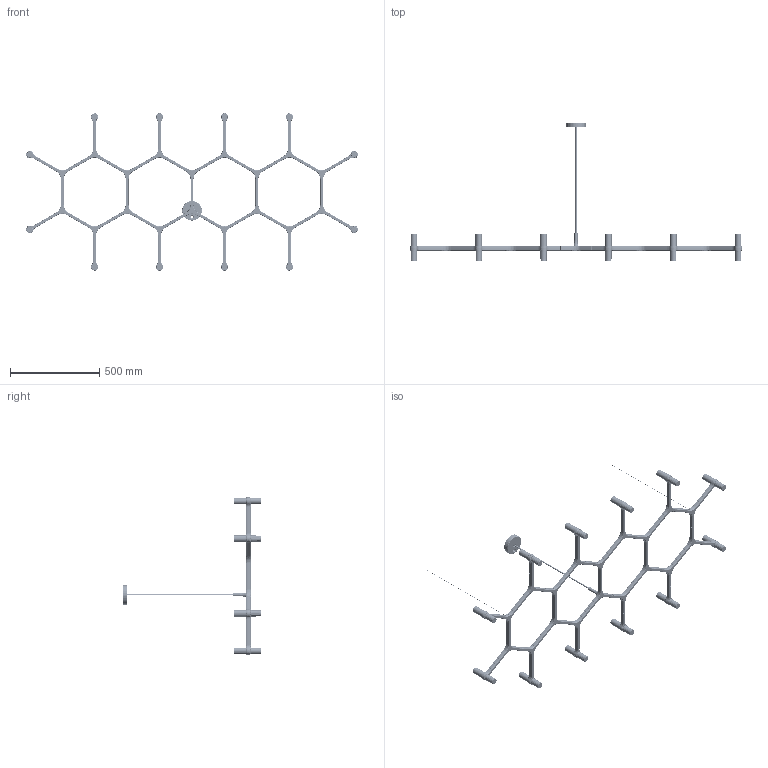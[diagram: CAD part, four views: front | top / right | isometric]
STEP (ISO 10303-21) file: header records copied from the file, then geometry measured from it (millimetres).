
FILE_DESCRIPTION (( 'STEP AP214' ), '1' );
FILE_NAME ('Giga Major 12.STEP', '2014-04-15T15:29:35', ( 'winner' ), ( '' ), 'SwSTEP 2.0', 'SolidWorks 2012', '' );
FILE_SCHEMA (( 'AUTOMOTIVE_DESIGN' ));
Length unit declared in the file: millimetre
Products named in the file (19): 052COM700110; 051CRO700100; TERMINALE_ASM; 061CRO701200; 51G9-L18; 051CRO701200; 051CRO700600; 051CRO700800; 051CRO700500; cavo acciaio; red cable; CROCE-SUP-VITI_ASM; 051CRO700300; CROCE-SUP-COLONNA_ASM; 051CRO700900_ASM; BARRA_CORTA_M12X1; COLONNA; 051CRO700400; Giga Major 12
Assembly tree (63 placements, depth 4):
  Giga Major 12
    CROCE-SUP-COLONNA_ASM
      051CRO700400
      051CRO700900_ASM
        COLONNA
        BARRA_CORTA_M12X1
    CROCE-SUP-VITI_ASM  x12
      051CRO700300
    red cable
    cavo acciaio  x2
    TERMINALE_ASM  x12
      051CRO700500
      051CRO700800
      051CRO700600
      051CRO701200
      51G9-L18
      061CRO701200
    051CRO700100  x18
    051CRO700300  x5
    052COM700110
Bounding box: 1860.65 x 777.5 x 882 mm (x, y, z)
Volume: 460159.2 mm3; surface area: 1607462.8 mm2
Topology: 40 solids, 291 shells, 28078 faces, 75831 edges, 49540 vertices
Faces by surface type: plane 17586, cylinder 4564, bspline 4286, cone 1462, torus 180
Entity records: 88063 total; most frequent: CARTESIAN_POINT 29148, ORIENTED_EDGE 12612, DIRECTION 11184, EDGE_CURVE 6340, VECTOR 4618, LINE 4618, VERTEX_POINT 4144, AXIS2_PLACEMENT_3D 3283
